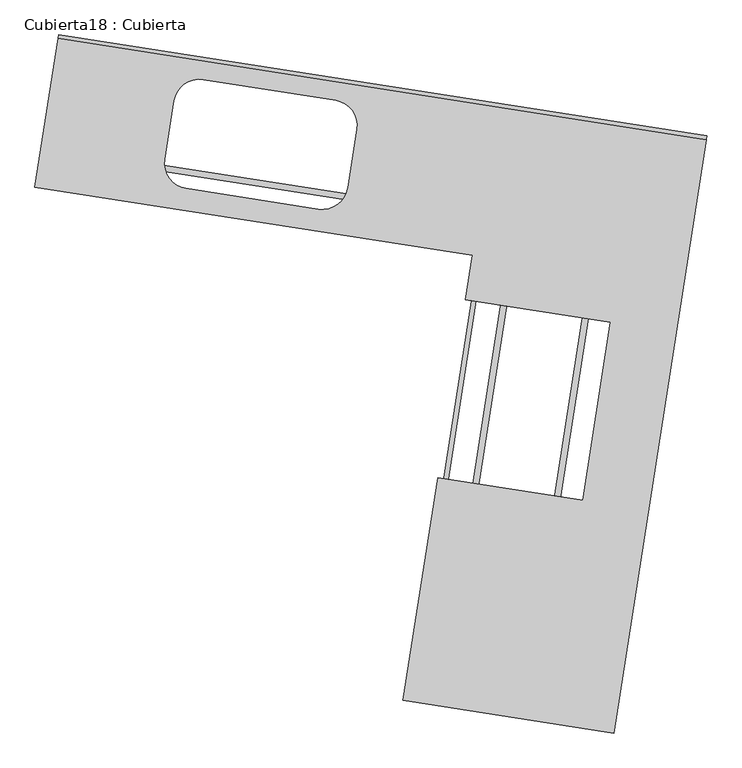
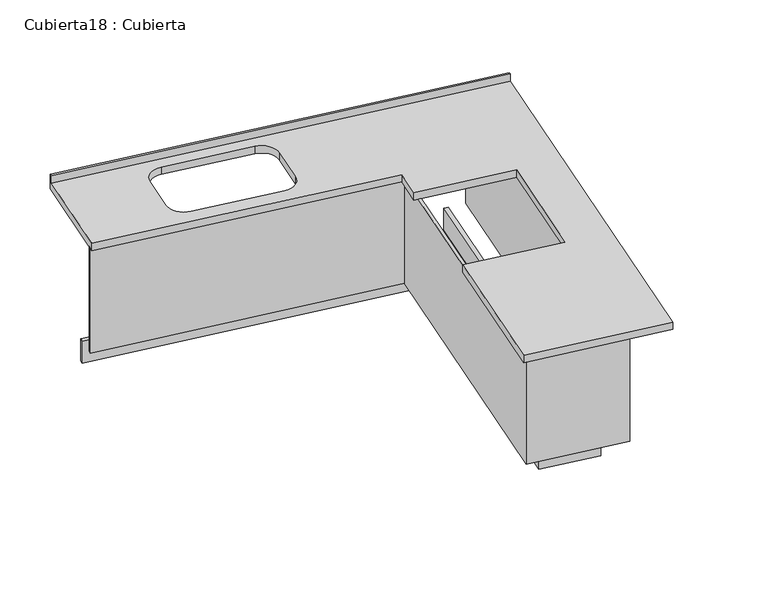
"""IFC4 building model written with IfcOpenShell, lengths in millimetres: furniture geometry, Cubierta18 : Cubierta."""

from ifc_helpers import new_model, si_unit, frame, origin, place, context, project, spatial, polyline, circle_curve, outline, extrude, source, transform, mapped, element, save
from ifc_brep_helpers import plane_surface, revolved_surface, advanced_brep


def cubierta18_cubierta_8217975e(model_context):
    return source(origin(), model_context, "Body", "SolidModel", [
        extrude(outline(polyline([(-30166.3985598, -72366.0541424), (-30536.9245463, -72308.3004382), (-30244.3057771, -70430.9687632), (-32240.205788, -70119.8688056), (-32236.355541, -70095.1670729), (-30215.7537974, -70410.1172775), (-30508.3725666, -72287.4489525), (-30187.2500455, -72337.5021627), (-29823.7867321, -70005.658606), (-29799.0849994, -70009.508853), (-30166.3985598, -72366.0541424)])), frame((0.0, 0.0, 6400.0), z_axis=(0.0, 0.0, 1.0), x_axis=(1.0, 0.0, 0.0)), (0.0, 0.0, 1.0), 150.0),
        extrude(outline(polyline([(-30679.6844447, -72412.5578668), (-30387.0656755, -70535.2261918), (-32259.4570229, -70243.3774691), (-32256.3768253, -70223.6160829), (-30364.2240917, -70518.5450032), (-30656.842861, -72395.8766783), (-30078.8223198, -72485.972457), (-29695.337722, -70025.6798903), (-29675.5763359, -70028.7600879), (-30062.1411312, -72508.8140408), (-30679.6844447, -72412.5578668)])), frame((0.0, 0.0, 6550.0), z_axis=(0.0, 0.0, 1.0), x_axis=(1.0, 0.0, 0.0)), (0.0, 0.0, 1.0), 720.0),
        advanced_brep(
        [(-32263.3072699, -70268.0792018, 7320.0), (-30415.6176552, -70556.0776775, 7320.0), (-30444.8795322, -70743.8108459, 7320.0), (-29832.2765614, -70839.2969711, 7320.0), (-29949.3240696, -71590.2296451, 7320.0), (-30561.9270405, -71494.7435199, 7320.0), (-30708.2364244, -72433.4093524, 7320.0), (-29818.9740513, -72572.0182432, 7320.0), (-29428.5590089, -70067.2625577, 7320.0), (-32165.5109966, -69640.6551913, 7320.0), (-31713.2748637, -70151.3975332, 7320.0), (-31674.7723939, -69904.3802062, 7320.0), (-31552.5699208, -69815.1358474, 7320.0), (-30994.3107619, -69902.1514292, 7320.0), (-30905.0664031, -70024.3539022, 7320.0), (-30943.5688729, -70271.3712292, 7320.0), (-31065.7713459, -70360.615588, 7320.0), (-31624.0305048, -70273.6000062, 7320.0), (-29426.2488607, -70052.441518, 7270.0), (-29818.9740513, -72572.0182432, 7270.0), (-30708.2364244, -72433.4093524, 7270.0), (-30561.9270405, -71494.7435199, 7270.0), (-29949.3240696, -71590.2296451, 7270.0), (-29832.2765614, -70839.2969711, 7270.0), (-30444.8795322, -70743.8108459, 7270.0), (-30415.6176552, -70556.0776775, 7270.0), (-32263.3072699, -70268.0792018, 7270.0), (-32163.2008484, -69625.8341516, 7270.0), (-31713.2748637, -70151.3975332, 7270.0), (-31624.0305048, -70273.6000062, 7270.0), (-31065.7713459, -70360.615588, 7270.0), (-30943.5688729, -70271.3712292, 7270.0), (-30905.0664031, -70024.3539022, 7270.0), (-30994.3107619, -69902.1514292, 7270.0), (-31552.5699208, -69815.1358474, 7270.0), (-31674.7723939, -69904.3802062, 7270.0), (-29426.2488607, -70052.4415181, 7370.0), (-29428.5590089, -70067.2625577, 7370.0), (-32163.2008484, -69625.8341517, 7370.0), (-32165.5109966, -69640.6551913, 7370.0)],
        [
            (0, 1),
            (1, 2),
            (2, 3),
            (3, 4),
            (4, 5),
            (5, 6),
            (6, 7),
            (7, 8),
            (8, 9),
            (9, 0),
            (10, 11),
            (11, 12, circle_curve(frame((-31569.0489779, -69920.8592633, 7320.0), z_axis=(0.0, 0.0, -1.0), x_axis=(0.9880693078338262, -0.15400987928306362, 0.0)), 107.0)),
            (12, 13),
            (13, 14, circle_curve(frame((-31010.789819, -70007.8748451, 7320.0), z_axis=(0.0, 0.0, -1.0), x_axis=(0.9880693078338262, -0.15400987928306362, 0.0)), 107.0)),
            (14, 15),
            (15, 16, circle_curve(frame((-31049.2922888, -70254.8921721, 7320.0), z_axis=(0.0, 0.0, -1.0), x_axis=(0.9880693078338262, -0.15400987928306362, 0.0)), 107.0)),
            (16, 17),
            (17, 10, circle_curve(frame((-31607.5514477, -70167.8765903, 7320.0), z_axis=(0.0, 0.0, -1.0), x_axis=(0.9880693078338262, -0.15400987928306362, 0.0)), 107.0)),
            (18, 19),
            (19, 20),
            (20, 21),
            (21, 22),
            (22, 23),
            (23, 24),
            (24, 25),
            (25, 26),
            (26, 27),
            (27, 18),
            (28, 29, circle_curve(frame((-31607.5514477, -70167.8765903, 7270.0), z_axis=(0.0, 0.0, 1.0), x_axis=(0.9880693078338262, -0.15400987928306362, 0.0)), 107.0)),
            (29, 30),
            (30, 31, circle_curve(frame((-31049.2922888, -70254.8921721, 7270.0), z_axis=(0.0, 0.0, 1.0), x_axis=(0.9880693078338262, -0.15400987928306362, 0.0)), 107.0)),
            (31, 32),
            (32, 33, circle_curve(frame((-31010.789819, -70007.8748451, 7270.0), z_axis=(0.0, 0.0, 1.0), x_axis=(0.9880693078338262, -0.15400987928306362, 0.0)), 107.0)),
            (33, 34),
            (34, 35, circle_curve(frame((-31569.0489779, -69920.8592633, 7270.0), z_axis=(0.0, 0.0, 1.0), x_axis=(0.9880693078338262, -0.15400987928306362, 0.0)), 107.0)),
            (35, 28),
            (36, 37),
            (37, 8),
            (7, 19),
            (18, 36),
            (36, 38),
            (38, 39),
            (39, 37),
            (39, 9),
            (27, 38),
            (26, 0),
            (25, 1),
            (10, 28),
            (35, 11),
            (34, 12),
            (33, 13),
            (32, 14),
            (31, 15),
            (30, 16),
            (29, 17),
            (5, 21),
            (20, 6),
            (24, 2),
            (23, 3),
            (22, 4),
        ],
        [
            plane_surface(frame((-31684.1423176, -69700.5047703, 7320.0), z_axis=(0.0, 0.0, 1.0), x_axis=(-0.9880693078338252, 0.15400987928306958, 0.0))),
            plane_surface(frame((-31684.1423176, -69700.5047703, 7270.0), z_axis=(0.0, 0.0, -1.0), x_axis=(0.9880693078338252, -0.15400987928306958, 0.0))),
            plane_surface(frame((-29426.2488607, -70052.4415181, 6420.0), z_axis=(0.9880693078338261, -0.1540098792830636, 0.0), x_axis=(0.0, 0.0, 1.0))),
            plane_surface(frame((-29426.2488607, -70052.4415181, 7370.0), z_axis=(0.0, 0.0, 1.0), x_axis=(-0.9880693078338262, 0.15400987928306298, 0.0))),
            plane_surface(frame((-29428.5590089, -70067.2625577, 7370.0), z_axis=(-0.15400987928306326, -0.9880693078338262, 0.0), x_axis=(-0.9880693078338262, 0.15400987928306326, 0.0))),
            plane_surface(frame((-29426.2488607, -70052.4415181, 7320.0), z_axis=(0.15400987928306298, 0.9880693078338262, 0.0), x_axis=(-0.9880693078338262, 0.15400987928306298, 0.0))),
            plane_surface(frame((-32163.2008484, -69625.8341517, 6420.0), z_axis=(-0.9880693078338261, 0.1540098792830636, 0.0), x_axis=(0.0, 0.0, 1.0))),
            plane_surface(frame((-32263.3072699, -70268.0792018, 7320.0), z_axis=(-0.15400987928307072, -0.988069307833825, 0.0), x_axis=(0.0, 0.0, -1.0))),
            plane_surface(frame((-31713.2748637, -70151.3975332, 7320.0), z_axis=(0.9880693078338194, -0.1540098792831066, 0.0), x_axis=(0.0, 0.0, -1.0))),
            revolved_surface(polyline([(-31463.32556196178, -69937.33832038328, 7270.0), (-31463.32556196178, -69937.33832038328, 7320.0)]), (-31569.0489779, -69920.8592633, 6420.0), (0.0, 0.0, -1.0000000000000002)),
            plane_surface(frame((-31552.5699208, -69815.1358474, 7320.0), z_axis=(-0.15400987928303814, -0.9880693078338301, 0.0), x_axis=(0.0, 0.0, -1.0))),
            revolved_surface(polyline([(-30905.06640306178, -70024.35390218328, 7270.0), (-30905.06640306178, -70024.35390218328, 7320.0)]), (-31010.789819, -70007.8748451, 6420.0), (0.0, 0.0, -1.0000000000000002)),
            plane_surface(frame((-30905.0664031, -70024.3539022, 7320.0), z_axis=(-0.9880693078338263, 0.15400987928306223, 0.0), x_axis=(0.0, 0.0, -1.0))),
            revolved_surface(polyline([(-30943.56887286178, -70271.37122918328, 7270.0), (-30943.56887286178, -70271.37122918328, 7320.0)]), (-31049.2922888, -70254.8921721, 6420.0), (0.0, 0.0, -1.0000000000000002)),
            plane_surface(frame((-31065.7713459, -70360.615588, 7320.0), z_axis=(0.1540098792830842, 0.9880693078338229, 0.0), x_axis=(0.0, 0.0, -1.0))),
            revolved_surface(polyline([(-31501.82803176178, -70184.35564738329, 7270.0), (-31501.82803176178, -70184.35564738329, 7320.0)]), (-31607.5514477, -70167.8765903, 6420.0), (0.0, 0.0, -1.0000000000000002)),
            plane_surface(frame((-30561.9270405, -71494.7435199, 7320.0), z_axis=(-0.9880693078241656, 0.1540098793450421, 0.0), x_axis=(0.0, 0.0, -1.0))),
            plane_surface(frame((-30708.2364244, -72433.4093524, 7320.0), z_axis=(-0.15400987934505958, -0.9880693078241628, 0.0), x_axis=(0.0, 0.0, -1.0))),
            plane_surface(frame((-30415.6176552, -70556.0776775, 7320.0), z_axis=(-0.9880693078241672, 0.15400987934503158, 0.0), x_axis=(0.0, 0.0, -1.0))),
            plane_surface(frame((-30444.8795322, -70743.8108459, 7320.0), z_axis=(-0.15400987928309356, -0.9880693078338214, 0.0), x_axis=(0.0, 0.0, -1.0))),
            plane_surface(frame((-29832.2765614, -70839.2969711, 7320.0), z_axis=(-0.9880693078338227, 0.15400987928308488, 0.0), x_axis=(0.0, 0.0, -1.0))),
            plane_surface(frame((-29949.3240696, -71590.2296451, 7320.0), z_axis=(0.15400987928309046, 0.988069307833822, 0.0), x_axis=(0.0, 0.0, -1.0))),
        ],
        [
            (0, [[1, 2, 3, 4, 5, 6, 7, 8, 9, 10], [11, 12, 13, 14, 15, 16, 17, 18]]),
            (1, [[19, 20, 21, 22, 23, 24, 25, 26, 27, 28], [29, 30, 31, 32, 33, 34, 35, 36]]),
            (2, [[37, 38, -8, 39, -19, 40]]),
            (3, [[-37, 41, 42, 43]]),
            (4, [[-38, -43, 44, -9]]),
            (5, [[-40, -28, 45, -41]]),
            (6, [[-42, -45, -27, 46, -10, -44]]),
            (7, [[-1, -46, -26, 47]]),
            (8, [[-11, 48, -36, 49]]),
            (9, [[-12, -49, -35, 50]]),
            (10, [[-13, -50, -34, 51]]),
            (11, [[-14, -51, -33, 52]]),
            (12, [[-15, -52, -32, 53]]),
            (13, [[-16, -53, -31, 54]]),
            (14, [[-17, -54, -30, 55]]),
            (15, [[-18, -55, -29, -48]]),
            (16, [[-6, 56, -21, 57]]),
            (17, [[-7, -57, -20, -39]]),
            (18, [[-2, -47, -25, 58]]),
            (19, [[-3, -58, -24, 59]]),
            (20, [[-4, -59, -23, 60]]),
            (21, [[-5, -60, -22, -56]]),
        ],
    ),
    ])


if __name__ == "__main__":
    model = new_model("IFC4")
    model_context = context("Model", 3, world=origin())
    ifc_project = project(units=[si_unit("LENGTHUNIT", "METRE", prefix="MILLI")], contexts=[model_context])
    site = spatial("IfcSite", under=ifc_project)
    building = spatial("IfcBuilding", under=site)
    placement = place(None, origin())
    cubierta18_cubierta_shape = cubierta18_cubierta_8217975e(model_context)
    element("IfcFurniture", 1, ObjectType="Cubierta18 : Cubierta", at=placement, inside=building, context=model_context, shape_type="MappedRepresentation", body=[
        mapped(cubierta18_cubierta_shape, transform((0.0, 0.0, 0.0), x_axis=(1.0, 0.0, 0.0), y_axis=(0.0, 1.0, 0.0), z_axis=(0.0, 0.0, 1.0))),
    ])
    save(model, "model.ifc")
